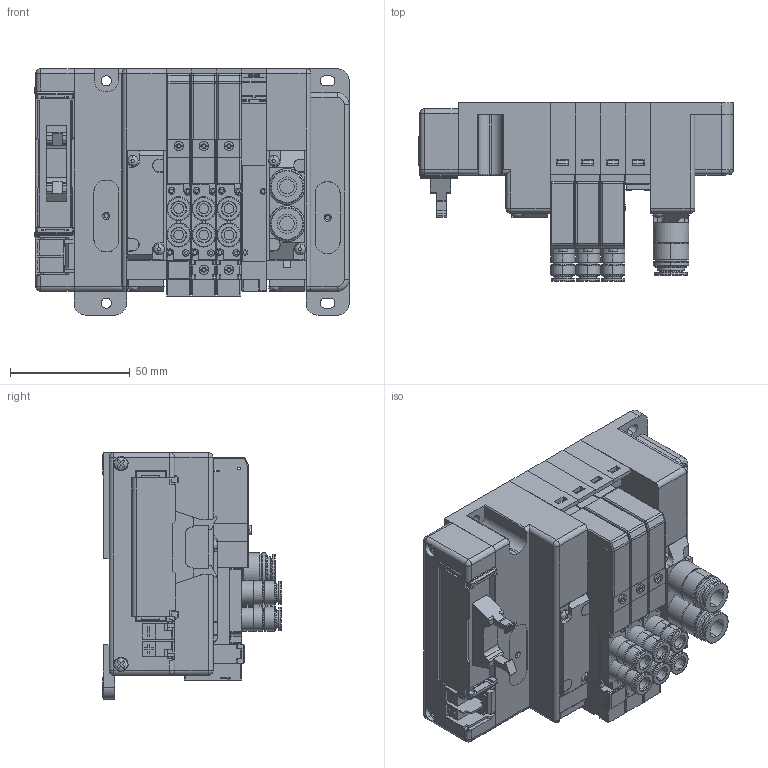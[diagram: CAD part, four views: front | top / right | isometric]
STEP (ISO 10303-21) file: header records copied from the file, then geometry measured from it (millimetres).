
FILE_DESCRIPTION( (''), '2;1');
FILE_NAME ('CVICAD02.9768.F10M4XP-JR-F10x_10625.stp','2020-08-31T10:42:51',(''),(''),'spGate 12.6.6','','');
FILE_SCHEMA (('AUTOMOTIVE_DESIGN'));
Length unit declared in the file: millimetre
Products named in the file (19): Assembly; F10_配管LASSY_ダイレクト; キャップ_DINねじ穴用; F10-PP; F10ZX_ValveBaseAssy; F10_VP; F10_配管RAssy_ダイレクト; F10XBPP; F10_DIN_配線ブロック_電源あり; 配線ブロック_F10x; F10_Adptor; F_3PortBody; F10_Cap; F10_SwitchBlock1; F_Connector-L; F10T_Body; F10_Port-FJ; F10_SwitchBlock; F10_Port-PJ
Assembly tree (40 placements, depth 2):
  Assembly
    F10_配管LASSY_ダイレクト
    キャップ_DINねじ穴用  x2
    F10-PP  x3
    F10ZX_ValveBaseAssy  x4
    F10_VP  x4
    F10_配管RAssy_ダイレクト
    F10XBPP
    F10_DIN_配線ブロック_電源あり
    配線ブロック_F10x
    F10_Adptor  x3
    F_3PortBody  x3
    F10_Cap  x3
    F10_SwitchBlock1
    F_Connector-L  x3
    F10T_Body  x3
    F10_Port-FJ  x3
    F10_SwitchBlock  x2
    F10_Port-PJ
Bounding box: 131.4 x 74.6 x 103 mm (x, y, z)
Volume: 375346.3 mm3; surface area: 148855.4 mm2
Topology: 39 solids, 40 shells, 3592 faces, 9735 edges, 6756 vertices
Faces by surface type: plane 2420, cylinder 865, bspline 277, sphere 30
Entity records: 97662 total; most frequent: CARTESIAN_POINT 13093, ORIENTED_EDGE 9835, DIRECTION 8829, COLOUR_RGB 6767, PRESENTATION_STYLE_ASSIGNMENT 6767, STYLED_ITEM 6767, EDGE_CURVE 4919, DRAUGHTING_PRE_DEFINED_CURVE_FONT 4919
